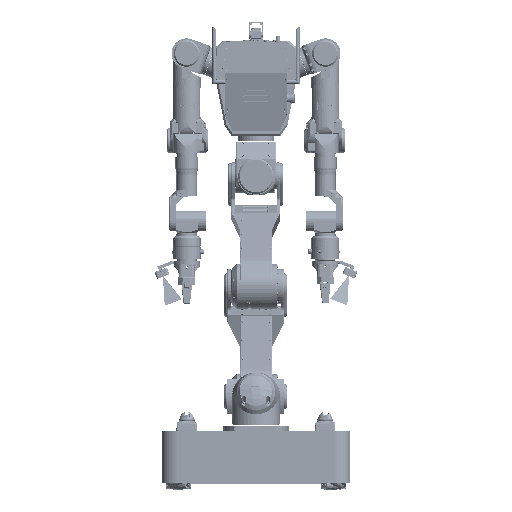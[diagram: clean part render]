
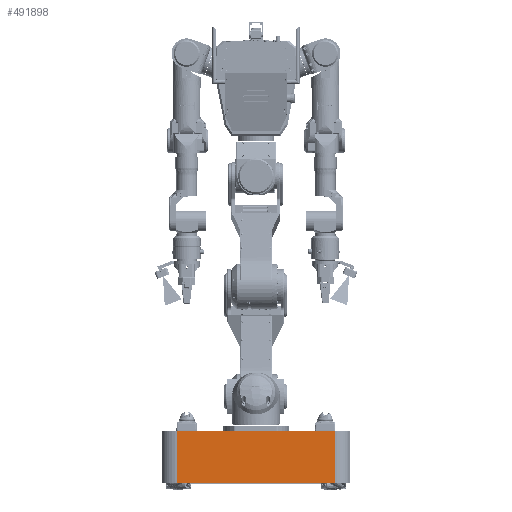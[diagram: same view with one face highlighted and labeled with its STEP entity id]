
A CAD part, left-side view. The second image highlights one B-rep face of the part: STEP entity #491898.
In plain terms, the highlighted planar face has unit normal (-1, 0, 0).
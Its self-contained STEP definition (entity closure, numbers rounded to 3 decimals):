
#23320=PLANE('',#529170);
#64912=FACE_OUTER_BOUND('',#95153,.T.);
#95153=EDGE_LOOP('',(#347289,#347290,#347291,#347292));
#126528=LINE('',#773883,#159286);
#126550=LINE('',#773966,#159308);
#126555=LINE('',#773980,#159313);
#126556=LINE('',#773981,#159314);
#159286=VECTOR('',#592852,1000.);
#159308=VECTOR('',#592920,1000.);
#159313=VECTOR('',#592933,1000.);
#159314=VECTOR('',#592934,1000.);
#222302=VERTEX_POINT('',#773880);
#222303=VERTEX_POINT('',#773882);
#222340=VERTEX_POINT('',#773963);
#222341=VERTEX_POINT('',#773965);
#271167=EDGE_CURVE('',#222302,#222303,#126528,.T.);
#271210=EDGE_CURVE('',#222341,#222340,#126550,.T.);
#271218=EDGE_CURVE('',#222340,#222303,#126555,.T.);
#271219=EDGE_CURVE('',#222302,#222341,#126556,.T.);
#347289=ORIENTED_EDGE('',*,*,#271210,.T.);
#347290=ORIENTED_EDGE('',*,*,#271218,.T.);
#347291=ORIENTED_EDGE('',*,*,#271167,.F.);
#347292=ORIENTED_EDGE('',*,*,#271219,.T.);
#491898=ADVANCED_FACE('',(#64912),#23320,.F.);
#529170=AXIS2_PLACEMENT_3D('',#773979,#592931,#592932);
#592852=DIRECTION('',(0.,-1.,0.));
#592920=DIRECTION('',(0.,-1.,0.));
#592931=DIRECTION('center_axis',(1.,0.,0.));
#592932=DIRECTION('ref_axis',(0.,0.,
1.));
#592933=DIRECTION('',(0.,0.,1.));
#592934=DIRECTION('',(0.,0.,-1.));
#773880=CARTESIAN_POINT('',(-349.5,250.,185.6));
#773882=CARTESIAN_POINT('',(-349.5,-250.,185.6));
#773883=CARTESIAN_POINT('',(-349.5,300.,185.6));
#773963=CARTESIAN_POINT('',(-349.5,-250.,20.6));
#773965=CARTESIAN_POINT('',(-349.5,250.,20.6));
#773966=CARTESIAN_POINT('',(-349.5,300.,20.6));
#773979=CARTESIAN_POINT('Origin',(-349.5,300.,185.6));
#773980=CARTESIAN_POINT('',(-349.5,-250.,185.6));
#773981=CARTESIAN_POINT('',(-349.5,250.,185.6));
